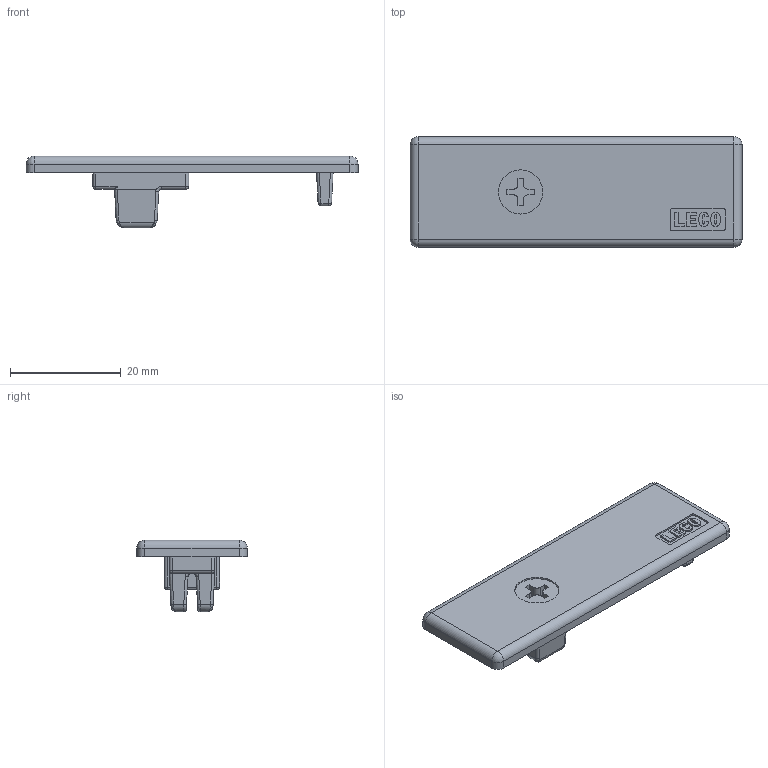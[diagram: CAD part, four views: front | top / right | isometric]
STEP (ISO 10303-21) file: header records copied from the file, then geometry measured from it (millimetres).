
FILE_DESCRIPTION(('STEP AP214'),'1');
FILE_NAME('EP26.stp','2017-07-24T04:52:06',(' '),(' '),'Spatial InterOp 3D',' ',' ');
FILE_SCHEMA(('automotive_design'));
Length unit declared in the file: millimetre
Products named in the file (1): EP26
Bounding box: 60 x 20 x 13 mm (x, y, z)
Volume: 4161.2 mm3; surface area: 3456.8 mm2
Topology: 1 solids, 1 shells, 210 faces, 535 edges, 318 vertices
Faces by surface type: cylinder 91, plane 83, bspline 22, sphere 14
Full cylindrical faces by diameter (mm): 8 x1
Entity records: 11690 total; most frequent: CARTESIAN_POINT 5035, DIRECTION 1060, ORIENTED_EDGE 1028, EDGE_CURVE 514, AXIS2_PLACEMENT_3D 381, VERTEX_POINT 318, LINE 298, VECTOR 298
